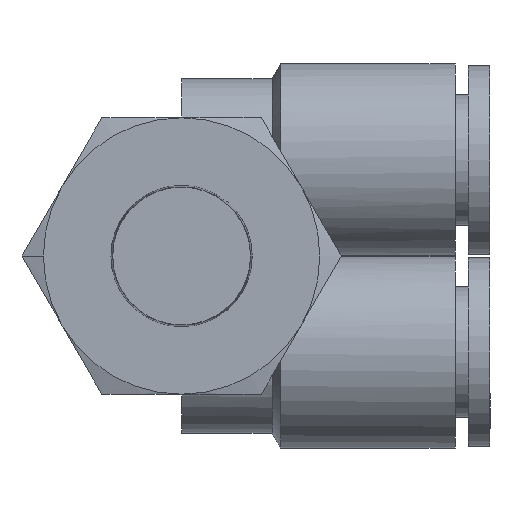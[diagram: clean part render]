
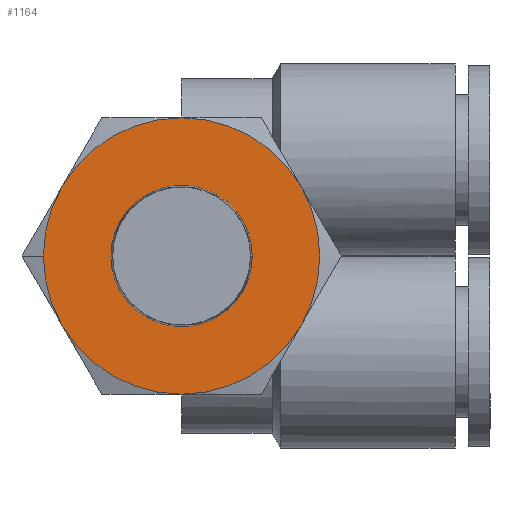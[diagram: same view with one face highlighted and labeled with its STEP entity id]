
A CAD part, front view. The second image highlights one B-rep face of the part: STEP entity #1164.
In plain terms, the highlighted planar face has unit normal (0, -1, 0).
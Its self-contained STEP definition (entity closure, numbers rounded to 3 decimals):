
#45 = AXIS2_PLACEMENT_3D ( 'NONE', #3772, #3475, #2170 ) ;
#151 = CIRCLE ( 'NONE', #2511, 9.5 ) ;
#163 = CARTESIAN_POINT ( 'NONE',  ( 0., 0., 0. ) ) ;
#204 = CARTESIAN_POINT ( 'NONE',  ( 8.227, 0., 4.75 ) ) ;
#330 = CARTESIAN_POINT ( 'NONE',  ( 0., 0., 0. ) ) ;
#335 = FACE_BOUND ( 'NONE', #2881, .T. ) ;
#367 = VERTEX_POINT ( 'NONE', #3035 ) ;
#372 = EDGE_CURVE ( 'NONE', #4137, #3202, #151, .T. ) ;
#374 = ORIENTED_EDGE ( 'NONE', *, *, #1300, .T. ) ;
#531 = DIRECTION ( 'NONE',  ( 1., 0., 0. ) ) ;
#692 = DIRECTION ( 'NONE',  ( 1., 0., 0. ) ) ;
#980 = PLANE ( 'NONE',  #2619 ) ;
#993 = EDGE_CURVE ( 'NONE', #2966, #3463, #1125, .T. ) ;
#1019 = DIRECTION ( 'NONE',  ( 0., -1., 0. ) ) ;
#1023 = FACE_OUTER_BOUND ( 'NONE', #1571, .T. ) ;
#1115 = ORIENTED_EDGE ( 'NONE', *, *, #1116, .T. ) ;
#1116 = EDGE_CURVE ( 'NONE', #367, #4145, #1463, .T. ) ;
#1125 = CIRCLE ( 'NONE', #45, 9.5 ) ;
#1163 = CARTESIAN_POINT ( 'NONE',  ( 0., 0., -9.5 ) ) ;
#1164 = ADVANCED_FACE ( 'NONE', ( #1023, #335 ), #980, .F. ) ;
#1167 = CARTESIAN_POINT ( 'NONE',  ( 0., 0., 0. ) ) ;
#1219 = CIRCLE ( 'NONE', #4062, 9.5 ) ;
#1258 = AXIS2_PLACEMENT_3D ( 'NONE', #163, #2750, #2086 ) ;
#1280 = ORIENTED_EDGE ( 'NONE', *, *, #1587, .F. ) ;
#1300 = EDGE_CURVE ( 'NONE', #2261, #2966, #1330, .T. ) ;
#1330 = CIRCLE ( 'NONE', #1258, 9.5 ) ;
#1349 = CARTESIAN_POINT ( 'NONE',  ( 8.227, 0., -4.75 ) ) ;
#1376 = ORIENTED_EDGE ( 'NONE', *, *, #372, .T. ) ;
#1422 = DIRECTION ( 'NONE',  ( 0., -1., 0. ) ) ;
#1425 = CARTESIAN_POINT ( 'NONE',  ( 0., 0., 0. ) ) ;
#1437 = ORIENTED_EDGE ( 'NONE', *, *, #1532, .F. ) ;
#1463 = CIRCLE ( 'NONE', #2760, 9.5 ) ;
#1468 = AXIS2_PLACEMENT_3D ( 'NONE', #1614, #3874, #1930 ) ;
#1486 = CARTESIAN_POINT ( 'NONE',  ( -9.5, 0., 0. ) ) ;
#1532 = EDGE_CURVE ( 'NONE', #2142, #3974, #2547, .T. ) ;
#1571 = EDGE_LOOP ( 'NONE', ( #2968, #3955, #1376, #2652, #1115, #2682, #374 ) ) ;
#1587 = EDGE_CURVE ( 'NONE', #3974, #2142, #3148, .T. ) ;
#1597 = AXIS2_PLACEMENT_3D ( 'NONE', #330, #1019, #692 ) ;
#1614 = CARTESIAN_POINT ( 'NONE',  ( 0., 0., 0. ) ) ;
#1677 = AXIS2_PLACEMENT_3D ( 'NONE', #3566, #2595, #3158 ) ;
#1712 = DIRECTION ( 'NONE',  ( 0., -1., 0. ) ) ;
#1757 = DIRECTION ( 'NONE',  ( 1., 0., 0. ) ) ;
#1930 = DIRECTION ( 'NONE',  ( 1., 0., 0. ) ) ;
#1935 = DIRECTION ( 'NONE',  ( 0., 1., 0. ) ) ;
#1981 = CARTESIAN_POINT ( 'NONE',  ( 0., 0., 9.5 ) ) ;
#2086 = DIRECTION ( 'NONE',  ( 1., 0., 0. ) ) ;
#2136 = CARTESIAN_POINT ( 'NONE',  ( 0., 0., 0. ) ) ;
#2142 = VERTEX_POINT ( 'NONE', #3983 ) ;
#2167 = AXIS2_PLACEMENT_3D ( 'NONE', #1167, #1422, #2396 ) ;
#2170 = DIRECTION ( 'NONE',  ( 1., 0., 0. ) ) ;
#2261 = VERTEX_POINT ( 'NONE', #3056 ) ;
#2287 = EDGE_CURVE ( 'NONE', #3463, #4137, #2647, .T. ) ;
#2296 = DIRECTION ( 'NONE',  ( 1., 0., 0. ) ) ;
#2396 = DIRECTION ( 'NONE',  ( 1., 0., 0. ) ) ;
#2511 = AXIS2_PLACEMENT_3D ( 'NONE', #1425, #2726, #4007 ) ;
#2547 = CIRCLE ( 'NONE', #1468, 4.1 ) ;
#2559 = CIRCLE ( 'NONE', #1677, 9.5 ) ;
#2595 = DIRECTION ( 'NONE',  ( 0., -1., 0. ) ) ;
#2619 = AXIS2_PLACEMENT_3D ( 'NONE', #3547, #1935, #2296 ) ;
#2647 = CIRCLE ( 'NONE', #2167, 9.5 ) ;
#2652 = ORIENTED_EDGE ( 'NONE', *, *, #2884, .T. ) ;
#2682 = ORIENTED_EDGE ( 'NONE', *, *, #3603, .T. ) ;
#2717 = CARTESIAN_POINT ( 'NONE',  ( 0., 0., 0. ) ) ;
#2726 = DIRECTION ( 'NONE',  ( 0., -1., 0. ) ) ;
#2750 = DIRECTION ( 'NONE',  ( 0., -1., 0. ) ) ;
#2760 = AXIS2_PLACEMENT_3D ( 'NONE', #2136, #3425, #531 ) ;
#2881 = EDGE_LOOP ( 'NONE', ( #1280, #1437 ) ) ;
#2884 = EDGE_CURVE ( 'NONE', #3202, #367, #1219, .T. ) ;
#2941 = CARTESIAN_POINT ( 'NONE',  ( 4.1, 0., 0. ) ) ;
#2966 = VERTEX_POINT ( 'NONE', #1163 ) ;
#2968 = ORIENTED_EDGE ( 'NONE', *, *, #993, .T. ) ;
#3035 = CARTESIAN_POINT ( 'NONE',  ( -8.227, 0., 4.75 ) ) ;
#3056 = CARTESIAN_POINT ( 'NONE',  ( -8.227, 0., -4.75 ) ) ;
#3148 = CIRCLE ( 'NONE', #1597, 4.1 ) ;
#3158 = DIRECTION ( 'NONE',  ( 1., 0., 0. ) ) ;
#3202 = VERTEX_POINT ( 'NONE', #1981 ) ;
#3425 = DIRECTION ( 'NONE',  ( 0., -1., 0. ) ) ;
#3463 = VERTEX_POINT ( 'NONE', #1349 ) ;
#3475 = DIRECTION ( 'NONE',  ( 0., -1., 0. ) ) ;
#3547 = CARTESIAN_POINT ( 'NONE',  ( 9.5, 0., 0. ) ) ;
#3566 = CARTESIAN_POINT ( 'NONE',  ( 0., 0., 0. ) ) ;
#3603 = EDGE_CURVE ( 'NONE', #4145, #2261, #2559, .T. ) ;
#3772 = CARTESIAN_POINT ( 'NONE',  ( 0., 0., 0. ) ) ;
#3874 = DIRECTION ( 'NONE',  ( 0., -1., 0. ) ) ;
#3955 = ORIENTED_EDGE ( 'NONE', *, *, #2287, .T. ) ;
#3974 = VERTEX_POINT ( 'NONE', #2941 ) ;
#3983 = CARTESIAN_POINT ( 'NONE',  ( -4.1, 0., 0. ) ) ;
#4007 = DIRECTION ( 'NONE',  ( 1., 0., 0. ) ) ;
#4062 = AXIS2_PLACEMENT_3D ( 'NONE', #2717, #1712, #1757 ) ;
#4137 = VERTEX_POINT ( 'NONE', #204 ) ;
#4145 = VERTEX_POINT ( 'NONE', #1486 ) ;
